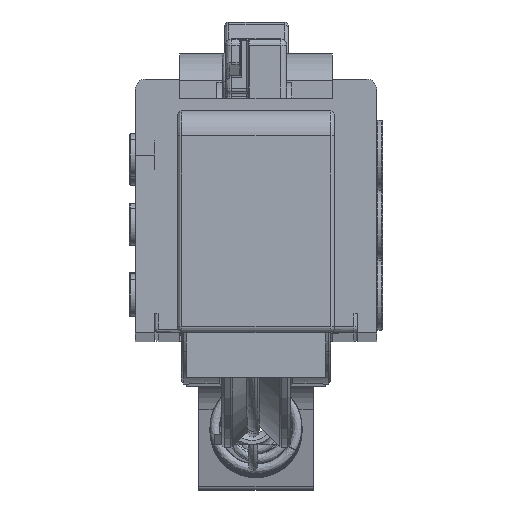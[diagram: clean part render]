
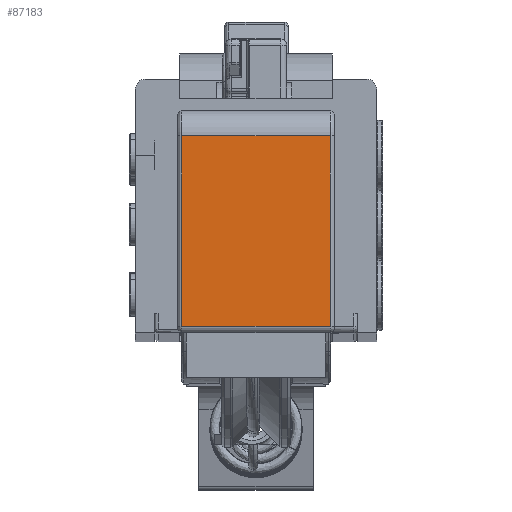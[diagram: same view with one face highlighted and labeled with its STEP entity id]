
A CAD part, top view. The second image highlights one B-rep face of the part: STEP entity #87183.
In plain terms, the highlighted planar face has unit normal (0, 0, 1).
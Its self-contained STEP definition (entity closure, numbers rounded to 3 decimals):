
#1150=DIRECTION('',(0.,-1.,0.));
#1151=VECTOR('',#1150,15.);
#1152=CARTESIAN_POINT('',(5.85,15.5,-10.));
#1153=LINE('',#1152,#1151);
#1157=DIRECTION('',(0.,1.,0.));
#1158=VECTOR('',#1157,15.);
#1159=CARTESIAN_POINT('',(-5.85,0.5,-10.));
#1160=LINE('',#1159,#1158);
#1179=DIRECTION('',(-1.,0.,0.));
#1180=VECTOR('',#1179,11.7);
#1181=CARTESIAN_POINT('',(5.85,15.5,-10.));
#1182=LINE('',#1181,#1180);
#75573=DIRECTION('',(1.,0.,0.));
#75574=VECTOR('',#75573,11.7);
#75575=CARTESIAN_POINT('',(-5.85,0.5,-10.));
#75576=LINE('',#75575,#75574);
#83574=CARTESIAN_POINT('',(-5.85,0.5,-10.));
#83575=VERTEX_POINT('',#83574);
#83590=CARTESIAN_POINT('',(-5.85,15.5,-10.));
#83592=VERTEX_POINT('',#83590);
#83772=CARTESIAN_POINT('',(5.85,0.5,-10.));
#83773=VERTEX_POINT('',#83772);
#83776=CARTESIAN_POINT('',(5.85,15.5,-10.));
#83777=VERTEX_POINT('',#83776);
#87169=CARTESIAN_POINT('',(0.,-12.566,-10.));
#87170=DIRECTION('',(0.,0.,-1.));
#87171=DIRECTION('',(0.,1.,0.));
#87172=AXIS2_PLACEMENT_3D('',#87169,#87170,#87171);
#87173=PLANE('',#87172);
#87175=ORIENTED_EDGE('',*,*,#87174,.F.);
#87177=ORIENTED_EDGE('',*,*,#87176,.T.);
#87179=ORIENTED_EDGE('',*,*,#87178,.F.);
#87180=ORIENTED_EDGE('',*,*,#87154,.T.);
#87181=EDGE_LOOP('',(#87175,#87177,#87179,#87180));
#87182=FACE_OUTER_BOUND('',#87181,.F.);
#87154=EDGE_CURVE('',#83575,#83592,#1160,.T.);
#87174=EDGE_CURVE('',#83777,#83592,#1182,.T.);
#87176=EDGE_CURVE('',#83777,#83773,#1153,.T.);
#87178=EDGE_CURVE('',#83575,#83773,#75576,.T.);
#87183=ADVANCED_FACE('',(#87182),#87173,.F.);
